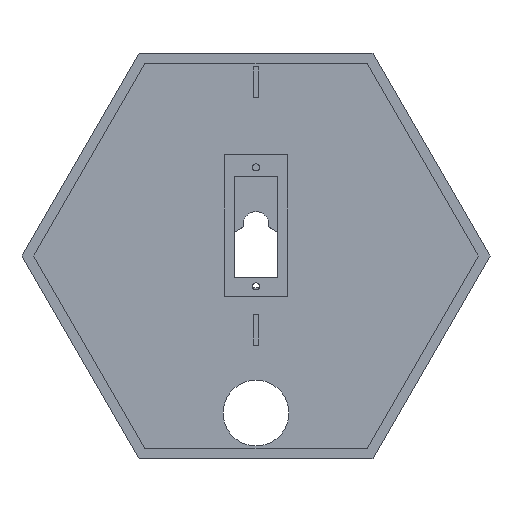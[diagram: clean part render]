
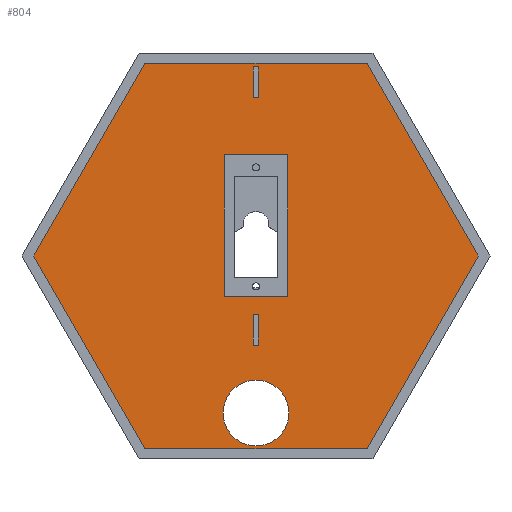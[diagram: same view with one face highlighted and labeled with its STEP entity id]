
A CAD part, front view. The second image highlights one B-rep face of the part: STEP entity #804.
In plain terms, the highlighted planar face has unit normal (0, -1, 0).
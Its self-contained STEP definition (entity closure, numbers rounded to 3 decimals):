
#20=FACE_BOUND('',#131,.T.);
#21=FACE_BOUND('',#132,.T.);
#22=FACE_BOUND('',#133,.T.);
#23=FACE_BOUND('',#134,.T.);
#39=PLANE('',#879);
#82=FACE_OUTER_BOUND('',#130,.T.);
#130=EDGE_LOOP('',(#659,#660,#661,#662,#663,#664));
#131=EDGE_LOOP('',(#665));
#132=EDGE_LOOP('',(#666,#667,#668,#669,#670,#671));
#133=EDGE_LOOP('',(#672,#673,#674,#675));
#134=EDGE_LOOP('',(#676,#677,#678,#679));
#187=LINE('',#1215,#282);
#190=LINE('',#1220,#285);
#191=LINE('',#1221,#286);
#197=LINE('',#1237,#292);
#198=LINE('',#1239,#293);
#199=LINE('',#1240,#294);
#200=LINE('',#1244,#295);
#201=LINE('',#1246,#296);
#202=LINE('',#1248,#297);
#203=LINE('',#1250,#298);
#204=LINE('',#1252,#299);
#205=LINE('',#1253,#300);
#206=LINE('',#1256,#301);
#207=LINE('',#1258,#302);
#208=LINE('',#1260,#303);
#209=LINE('',#1261,#304);
#210=LINE('',#1264,#305);
#211=LINE('',#1266,#306);
#212=LINE('',#1268,#307);
#213=LINE('',#1269,#308);
#282=VECTOR('',#987,10.);
#285=VECTOR('',#992,10.);
#286=VECTOR('',#993,10.);
#292=VECTOR('',#1015,10.);
#293=VECTOR('',#1018,10.);
#294=VECTOR('',#1019,10.);
#295=VECTOR('',#1022,10.);
#296=VECTOR('',#1023,10.);
#297=VECTOR('',#1024,10.);
#298=VECTOR('',#1025,10.);
#299=VECTOR('',#1026,10.);
#300=VECTOR('',#1027,10.);
#301=VECTOR('',#1028,10.);
#302=VECTOR('',#1029,10.);
#303=VECTOR('',#1030,10.);
#304=VECTOR('',#1031,10.);
#305=VECTOR('',#1032,10.);
#306=VECTOR('',#1033,10.);
#307=VECTOR('',#1034,10.);
#308=VECTOR('',#1035,10.);
#355=CIRCLE('',#852,6.5);
#382=VERTEX_POINT('',#1159);
#385=VERTEX_POINT('',#1168);
#388=VERTEX_POINT('',#1175);
#402=VERTEX_POINT('',#1212);
#403=VERTEX_POINT('',#1214);
#404=VERTEX_POINT('',#1218);
#406=VERTEX_POINT('',#1235);
#407=VERTEX_POINT('',#1242);
#408=VERTEX_POINT('',#1243);
#409=VERTEX_POINT('',#1245);
#410=VERTEX_POINT('',#1247);
#411=VERTEX_POINT('',#1249);
#412=VERTEX_POINT('',#1251);
#413=VERTEX_POINT('',#1254);
#414=VERTEX_POINT('',#1255);
#415=VERTEX_POINT('',#1257);
#416=VERTEX_POINT('',#1259);
#417=VERTEX_POINT('',#1262);
#418=VERTEX_POINT('',#1263);
#419=VERTEX_POINT('',#1265);
#420=VERTEX_POINT('',#1267);
#459=EDGE_CURVE('',#382,#382,#355,.T.);
#485=EDGE_CURVE('',#403,#402,#187,.T.);
#488=EDGE_CURVE('',#385,#404,#190,.T.);
#489=EDGE_CURVE('',#402,#385,#191,.T.);
#497=EDGE_CURVE('',#404,#406,#197,.T.);
#498=EDGE_CURVE('',#388,#403,#198,.T.);
#499=EDGE_CURVE('',#406,#388,#199,.T.);
#500=EDGE_CURVE('',#407,#408,#200,.T.);
#501=EDGE_CURVE('',#408,#409,#201,.T.);
#502=EDGE_CURVE('',#409,#410,#202,.T.);
#503=EDGE_CURVE('',#410,#411,#203,.T.);
#504=EDGE_CURVE('',#411,#412,#204,.T.);
#505=EDGE_CURVE('',#412,#407,#205,.T.);
#506=EDGE_CURVE('',#413,#414,#206,.T.);
#507=EDGE_CURVE('',#414,#415,#207,.T.);
#508=EDGE_CURVE('',#415,#416,#208,.T.);
#509=EDGE_CURVE('',#416,#413,#209,.T.);
#510=EDGE_CURVE('',#417,#418,#210,.T.);
#511=EDGE_CURVE('',#418,#419,#211,.T.);
#512=EDGE_CURVE('',#419,#420,#212,.T.);
#513=EDGE_CURVE('',#420,#417,#213,.T.);
#659=ORIENTED_EDGE('',*,*,#500,.T.);
#660=ORIENTED_EDGE('',*,*,#501,.T.);
#661=ORIENTED_EDGE('',*,*,#502,.T.);
#662=ORIENTED_EDGE('',*,*,#503,.T.);
#663=ORIENTED_EDGE('',*,*,#504,.T.);
#664=ORIENTED_EDGE('',*,*,#505,.T.);
#665=ORIENTED_EDGE('',*,*,#459,.T.);
#666=ORIENTED_EDGE('',*,*,#497,.T.);
#667=ORIENTED_EDGE('',*,*,#499,.T.);
#668=ORIENTED_EDGE('',*,*,#498,.T.);
#669=ORIENTED_EDGE('',*,*,#485,.T.);
#670=ORIENTED_EDGE('',*,*,#489,.T.);
#671=ORIENTED_EDGE('',*,*,#488,.T.);
#672=ORIENTED_EDGE('',*,*,#506,.T.);
#673=ORIENTED_EDGE('',*,*,#507,.T.);
#674=ORIENTED_EDGE('',*,*,#508,.T.);
#675=ORIENTED_EDGE('',*,*,#509,.T.);
#676=ORIENTED_EDGE('',*,*,#510,.T.);
#677=ORIENTED_EDGE('',*,*,#511,.T.);
#678=ORIENTED_EDGE('',*,*,#512,.T.);
#679=ORIENTED_EDGE('',*,*,#513,.T.);
#804=ADVANCED_FACE('',(#82,#20,#21,#22,#23),#39,.F.);
#852=AXIS2_PLACEMENT_3D('',#1161,#937,#938);
#879=AXIS2_PLACEMENT_3D('',#1241,#1020,#1021);
#937=DIRECTION('center_axis',(0.,1.,0.));
#938=DIRECTION('ref_axis',(-1.,0.,0.));
#987=DIRECTION('',(-1.,0.,0.));
#992=DIRECTION('',(0.,0.,1.));
#993=DIRECTION('',(0.,0.,1.));
#1015=DIRECTION('',(1.,0.,0.));
#1018=DIRECTION('',(0.,0.,-1.));
#1019=DIRECTION('',(0.,0.,-1.));
#1020=DIRECTION('center_axis',(0.,1.,0.));
#1021=DIRECTION('ref_axis',(0.,0.,1.));
#1022=DIRECTION('',(0.5,0.,-0.866));
#1023=DIRECTION('',(1.,0.,0.));
#1024=DIRECTION('',(0.5,0.,0.866));
#1025=DIRECTION('',(-0.5,0.,0.866));
#1026=DIRECTION('',(-1.,0.,0.));
#1027=DIRECTION('',(-0.5,0.,-0.866));
#1028=DIRECTION('',(0.,0.,1.));
#1029=DIRECTION('',(1.,0.,0.));
#1030=DIRECTION('',(0.,0.,-1.));
#1031=DIRECTION('',(-1.,0.,0.));
#1032=DIRECTION('',(0.,0.,1.));
#1033=DIRECTION('',(1.,0.,0.));
#1034=DIRECTION('',(0.,0.,-1.));
#1035=DIRECTION('',(-1.,0.,0.));
#1159=CARTESIAN_POINT('',(9.25,-46.5,-19.992));
#1161=CARTESIAN_POINT('Origin',(2.75,-46.5,-19.992));
#1168=CARTESIAN_POINT('',(-3.5,-46.5,11.008));
#1175=CARTESIAN_POINT('',(9.,-46.5,11.008));
#1212=CARTESIAN_POINT('',(-3.5,-46.5,3.008));
#1214=CARTESIAN_POINT('',(9.,-46.5,3.008));
#1215=CARTESIAN_POINT('',(-0.378,-46.5,3.008));
#1218=CARTESIAN_POINT('',(-3.5,-46.5,31.008));
#1220=CARTESIAN_POINT('',(-3.5,-46.5,23.362));
#1221=CARTESIAN_POINT('',(-3.5,-46.5,23.362));
#1235=CARTESIAN_POINT('',(9.,-46.5,31.008));
#1237=CARTESIAN_POINT('',(5.872,-46.5,31.008));
#1239=CARTESIAN_POINT('',(9.,-46.5,9.362));
#1240=CARTESIAN_POINT('',(9.,-46.5,9.362));
#1241=CARTESIAN_POINT('Origin',(2.743,-46.5,15.715));
#1242=CARTESIAN_POINT('',(-41.129,-46.5,11.008));
#1243=CARTESIAN_POINT('',(-19.189,-46.5,-26.992));
#1244=CARTESIAN_POINT('',(-31.179,-46.5,-6.225));
#1245=CARTESIAN_POINT('',(24.689,-46.5,-26.992));
#1246=CARTESIAN_POINT('',(2.747,-46.5,-26.992));
#1247=CARTESIAN_POINT('',(46.629,-46.5,11.008));
#1248=CARTESIAN_POINT('',(36.677,-46.5,-6.228));
#1249=CARTESIAN_POINT('',(24.689,-46.5,49.008));
#1250=CARTESIAN_POINT('',(34.639,-46.5,31.775));
#1251=CARTESIAN_POINT('',(-19.189,-46.5,49.008));
#1252=CARTESIAN_POINT('',(2.747,-46.5,49.008));
#1253=CARTESIAN_POINT('',(-29.141,-46.5,31.772));
#1254=CARTESIAN_POINT('',(2.2,-46.5,42.324));
#1255=CARTESIAN_POINT('',(2.2,-46.5,48.324));
#1256=CARTESIAN_POINT('',(2.2,-46.5,30.52));
#1257=CARTESIAN_POINT('',(3.2,-46.5,48.324));
#1258=CARTESIAN_POINT('',(2.722,-46.5,48.324));
#1259=CARTESIAN_POINT('',(3.2,-46.5,42.324));
#1260=CARTESIAN_POINT('',(3.2,-46.5,30.52));
#1261=CARTESIAN_POINT('',(2.722,-46.5,42.324));
#1262=CARTESIAN_POINT('',(2.2,-46.5,-6.576));
#1263=CARTESIAN_POINT('',(2.2,-46.5,-0.576));
#1264=CARTESIAN_POINT('',(2.2,-46.5,6.07));
#1265=CARTESIAN_POINT('',(3.2,-46.5,-0.576));
#1266=CARTESIAN_POINT('',(2.722,-46.5,-0.576));
#1267=CARTESIAN_POINT('',(3.2,-46.5,-6.576));
#1268=CARTESIAN_POINT('',(3.2,-46.5,6.07));
#1269=CARTESIAN_POINT('',(2.722,-46.5,-6.576));
